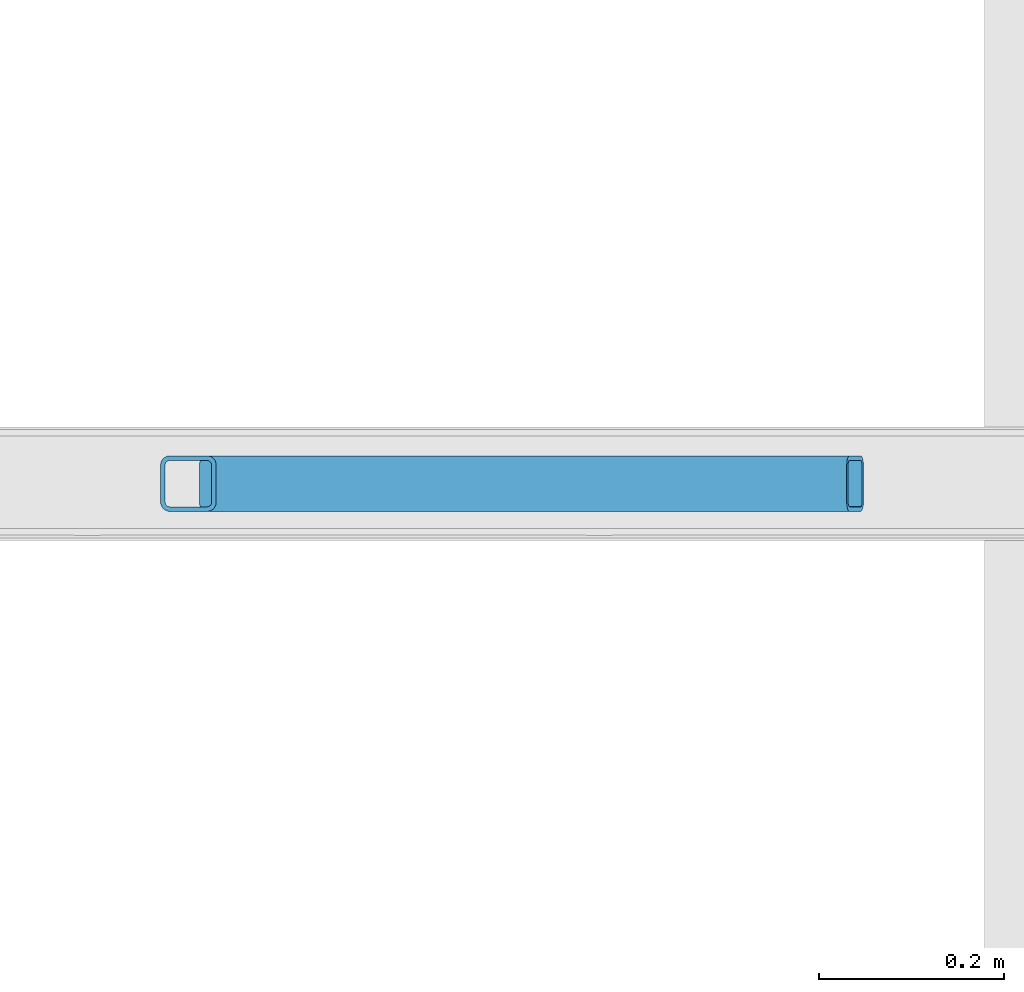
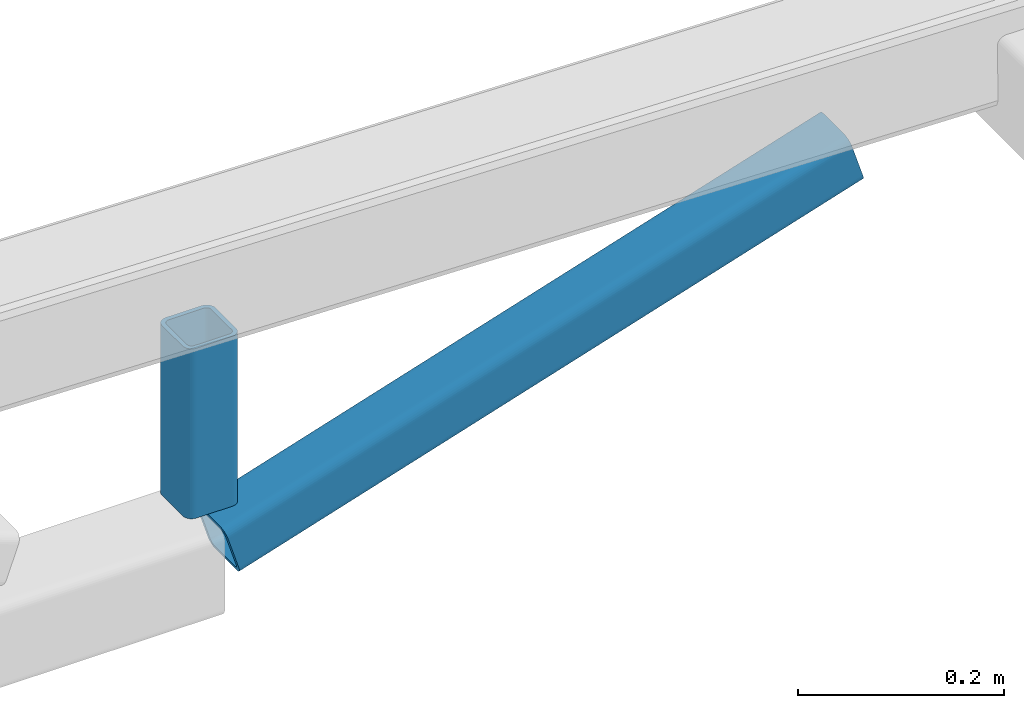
# One storey, part 5 of 10: 2 members, 1 element without a shape of its own.
"""IFC2X3 building model written with IfcOpenShell, lengths in millimetres."""

import ifcopenshell
import ifcopenshell.guid

model = None  # the IFC model being written
_history = None  # IfcOwnerHistory: only IFC2X3 demands one
_inside = {}  # id of a spatial element -> (the spatial element, [elements in it])
_under = {}  # id of a project, library or spatial element -> (it, [spatial elements below it])
_declared = {}  # id of a project -> (the project, [libraries it declares])
_typed = {}  # id of a type object -> (the type object, [elements of that type])
_made_of = {}  # id of a material, layer set ... -> (it, [elements and type objects made of it])


def new_model(schema):
    """Start an empty IFC model of exactly this schema.

    Asked for "IFC4X3", IfcOpenShell would pick the latest addendum, in which some entities
    have other attributes; the version numbers below select the first issue.
    IFC2X3 requires an IfcOwnerHistory on every rooted entity: one is made here for all.
    """
    global model, _history
    if schema == "IFC4X3":
        model = ifcopenshell.file(schema_version=(4, 3, 0, 0))
    else:
        model = ifcopenshell.file(schema=schema)
    _inside.clear()
    _under.clear()
    _declared.clear()
    _typed.clear()
    _made_of.clear()
    _history = None
    if model.schema == "IFC2X3":
        org = make("IfcOrganization", Name="unknown")
        user = make(
            "IfcPersonAndOrganization",
            ThePerson=make("IfcPerson", FamilyName="unknown"),
            TheOrganization=org,
        )
        app = make(
            "IfcApplication",
            ApplicationDeveloper=org,
            Version="unknown",
            ApplicationFullName="unknown",
            ApplicationIdentifier="unknown",
        )
        _history = make(
            "IfcOwnerHistory",
            OwningUser=user,
            OwningApplication=app,
            ChangeAction="ADDED",
            CreationDate=0,
        )
    return model


def make(cls, **values):
    """One entity of the class cls with the attributes given. An attribute that is None is left unset."""
    return model.create_entity(
        cls, **{name: value for name, value in values.items() if value is not None}
    )


def entity(cls, *values):
    """Any entity or typed value of the class cls, its attributes in the order of the schema. None: left unset."""
    e = model.create_entity(cls)
    for i, value in enumerate(values):
        if value is not None:
            e[i] = value
    return e


def rooted(cls, **values):
    """An entity with a GlobalId (a new one), such as an element, a storey or a relation."""
    return make(cls, GlobalId=ifcopenshell.guid.new(), OwnerHistory=_history, **values)


def si_unit(unit_type, name, prefix=None):
    """IfcSIUnit, for example si_unit("LENGTHUNIT", "METRE", prefix="MILLI")."""
    return make("IfcSIUnit", UnitType=unit_type, Prefix=prefix, Name=name)


def converted_unit(unit_type, name, factor, base, dimensions=None, offset=None):
    """IfcConversionBasedUnit, such as the inch: factor (a typed value) times the base unit."""
    return make(
        "IfcConversionBasedUnit"
        if offset is None
        else "IfcConversionBasedUnitWithOffset",
        ConversionOffset=offset,
        Dimensions=None
        if dimensions is None
        else entity("IfcDimensionalExponents", *dimensions),
        UnitType=unit_type,
        Name=name,
        ConversionFactor=make(
            "IfcMeasureWithUnit", ValueComponent=factor, UnitComponent=base
        ),
    )


def derived_unit(unit_type, elements):
    """IfcDerivedUnit: a product of units, each with its exponent."""
    return make(
        "IfcDerivedUnit",
        Elements=[
            make("IfcDerivedUnitElement", Unit=unit, Exponent=power)
            for unit, power in elements
        ],
        UnitType=unit_type,
    )


def assignment(units):
    """IfcUnitAssignment: the units of a project."""
    return None if units is None else make("IfcUnitAssignment", Units=units)


def point(xyz):
    """IfcCartesianPoint."""
    return None if xyz is None else make("IfcCartesianPoint", Coordinates=xyz)


def direction(xyz):
    """IfcDirection."""
    return None if xyz is None else make("IfcDirection", DirectionRatios=xyz)


def frame(location, z_axis=None, x_axis=None):
    """IfcAxis2Placement3D, a coordinate frame: its origin and axes. An axis left out is left unset."""
    return make(
        "IfcAxis2Placement3D",
        Location=point(location),
        Axis=direction(z_axis),
        RefDirection=direction(x_axis),
    )


def frame_2d(location, x_axis=None):
    """IfcAxis2Placement2D, a coordinate frame in the plane: its origin and x axis."""
    return make(
        "IfcAxis2Placement2D", Location=point(location), RefDirection=direction(x_axis)
    )


def origin():
    """The frame at (0, 0, 0) with its axes left unset."""
    return frame((0.0, 0.0, 0.0))


def place(relative_to, where):
    """IfcLocalPlacement: puts the frame where relative to a parent placement (None: the world)."""
    return make(
        "IfcLocalPlacement", PlacementRelTo=relative_to, RelativePlacement=where
    )


def context(
    kind, dimensions, precision=None, world=None, true_north=None, identifier=None
):
    """IfcGeometricRepresentationContext, for example the 3D "Model" context."""
    return make(
        "IfcGeometricRepresentationContext",
        ContextIdentifier=identifier,
        ContextType=kind,
        CoordinateSpaceDimension=dimensions,
        Precision=precision,
        WorldCoordinateSystem=world,
        TrueNorth=true_north,
    )


def subcontext(parent, identifier, kind, view, scale=None):
    """IfcGeometricRepresentationSubContext, for example "Body" below "Model"."""
    return make(
        "IfcGeometricRepresentationSubContext",
        ContextIdentifier=identifier,
        ContextType=kind,
        ParentContext=parent,
        TargetScale=scale,
        TargetView=view,
    )


def project(units=None, contexts=None):
    """IfcProject with its units and contexts."""
    return rooted(
        "IfcProject",
        Name="project",
        RepresentationContexts=contexts,
        UnitsInContext=assignment(units),
    )


def spatial(cls, under=None, at=None, **own):
    """A site, building, storey or space (cls), placed at a placement, below another one or the project."""
    s = rooted(cls, ObjectPlacement=at, **own)
    if under is not None:
        _under.setdefault(under.id(), (under, []))[1].append(s)
    return s


def polyline(points):
    """IfcPolyline through the points."""
    return make("IfcPolyline", Points=[point(p) for p in points])


def circle_curve(where, radius):
    """IfcCircle in the frame where."""
    return make("IfcCircle", Position=where, Radius=radius)


def parameter(value):
    """IfcParameterValue: where a trimmed curve begins or ends, as a parameter of its basis curve."""
    return model.create_entity("IfcParameterValue", value)


def trimmed(basis, trim1, trim2, sense, master):
    """IfcTrimmedCurve: the piece of a basis curve between two trims."""
    return make(
        "IfcTrimmedCurve",
        BasisCurve=basis,
        Trim1=trim1,
        Trim2=trim2,
        SenseAgreement=sense,
        MasterRepresentation=master,
    )


def segment(curve, same_sense, transition):
    """IfcCompositeCurveSegment."""
    return make(
        "IfcCompositeCurveSegment",
        Transition=transition,
        SameSense=same_sense,
        ParentCurve=curve,
    )


def composite_curve(segments, self_intersect=None):
    """IfcCompositeCurve: segments joined end to end."""
    return make("IfcCompositeCurve", Segments=segments, SelfIntersect=self_intersect)


def outline(outer, holes=None, kind="AREA"):
    """IfcArbitraryClosedProfileDef: a profile drawn as a closed curve; with holes, ...WithVoids."""
    if holes is None:
        return make("IfcArbitraryClosedProfileDef", ProfileType=kind, OuterCurve=outer)
    return make(
        "IfcArbitraryProfileDefWithVoids",
        ProfileType=kind,
        OuterCurve=outer,
        InnerCurves=holes,
    )


def extrude(swept, where, along, depth):
    """IfcExtrudedAreaSolid: the profile swept, set in the frame where, extruded along a direction by depth."""
    return make(
        "IfcExtrudedAreaSolid",
        SweptArea=swept,
        Position=where,
        ExtrudedDirection=direction(along),
        Depth=depth,
    )


def shape(context_of_items, identifier, shape_type, items):
    """IfcShapeRepresentation: the items that make up one representation, for example the "Body"."""
    return make(
        "IfcShapeRepresentation",
        ContextOfItems=context_of_items,
        RepresentationIdentifier=identifier,
        RepresentationType=shape_type,
        Items=items,
    )


def source(mapping_origin, context_of_items, identifier, shape_type, items):
    """IfcRepresentationMap: a shape defined once, which mapped items show again and again."""
    return make(
        "IfcRepresentationMap",
        MappingOrigin=mapping_origin,
        MappedRepresentation=shape(context_of_items, identifier, shape_type, items),
    )


def transform(
    local_origin,
    x_axis=None,
    y_axis=None,
    z_axis=None,
    scale=None,
    scale2=None,
    scale3=None,
    uniform=True,
):
    """IfcCartesianTransformationOperator3D, or its non-uniform kind. x_axis, y_axis, z_axis: its Axis1, 2, 3."""
    if uniform:
        return make(
            "IfcCartesianTransformationOperator3D",
            Axis1=direction(x_axis),
            Axis2=direction(y_axis),
            LocalOrigin=point(local_origin),
            Scale=scale,
            Axis3=direction(z_axis),
        )
    return make(
        "IfcCartesianTransformationOperator3DnonUniform",
        Axis1=direction(x_axis),
        Axis2=direction(y_axis),
        LocalOrigin=point(local_origin),
        Scale=scale,
        Axis3=direction(z_axis),
        Scale2=scale2,
        Scale3=scale3,
    )


def mapped(mapping_source, mapping_target):
    """IfcMappedItem: shows the shape of a source again, moved by a transform."""
    return make(
        "IfcMappedItem", MappingSource=mapping_source, MappingTarget=mapping_target
    )


def made_of(thing, what):
    """Note that an element or type object is made of a material, layer set ...; save() writes the relation."""
    if what is not None:
        _made_of.setdefault(what.id(), (what, []))[1].append(thing)
    return thing


def type_object(cls, material=None, **own):
    """A type object (cls), such as IfcWallType, which elements share."""
    return made_of(rooted(cls, **own), material)


def type_shapes(of_type, sources):
    """Give a type object the sources (RepresentationMaps) that its elements show as mapped items."""
    of_type.RepresentationMaps = sources


def element(
    cls,
    number,
    at=None,
    inside=None,
    cuts=None,
    type_object=None,
    material=None,
    context=None,
    identifier="Body",
    shape_type=None,
    held_by="IfcProductDefinitionShape",
    body=None,
    shapes=None,
    **own,
):
    """One element of the class cls, such as IfcWall. Its Tag is "e" and its number.

    at: its placement. inside: the storey or other place that contains it. cuts: it is an
    opening in that element (IfcRelVoidsElement). A single representation is given by context,
    identifier, shape_type and body (its items); several are given by shapes. held_by: the class
    of the entity that holds the representations. save() writes the other relations.
    """
    e = rooted(cls, Tag="e%d" % number, ObjectPlacement=at, **own)
    if body is not None:
        shapes = [shape(context, identifier, shape_type, body)]
    if shapes is not None:
        e.Representation = make(held_by, Representations=shapes)
    if inside is not None:
        _inside.setdefault(inside.id(), (inside, []))[1].append(e)
    if cuts is not None:
        rooted(
            "IfcRelVoidsElement", RelatingBuildingElement=cuts, RelatedOpeningElement=e
        )
    if type_object is not None:
        _typed.setdefault(type_object.id(), (type_object, []))[1].append(e)
    return made_of(e, material)


def aggregate(whole, parts):
    """IfcRelAggregates: a whole, such as a stair, and the parts it consists of."""
    return rooted("IfcRelAggregates", RelatingObject=whole, RelatedObjects=parts)


def save(model, path):
    """Write the relations noted so far, then the file.

    IfcRelAggregates (storeys below a building ...), IfcRelContainedInSpatialStructure (elements
    in a storey), IfcRelDefinesByType, IfcRelAssociatesMaterial and IfcRelDeclares: one each for
    every whole, place, type object, material and project.
    """
    for whole, parts in _under.values():
        aggregate(whole, parts)
    for where, things in _inside.values():
        rooted(
            "IfcRelContainedInSpatialStructure",
            RelatedElements=things,
            RelatingStructure=where,
        )
    for kind, things in _typed.values():
        rooted("IfcRelDefinesByType", RelatedObjects=things, RelatingType=kind)
    for what, things in _made_of.values():
        rooted("IfcRelAssociatesMaterial", RelatedObjects=things, RelatingMaterial=what)
    for by, libraries in _declared.values():
        rooted("IfcRelDeclares", RelatingContext=by, RelatedDefinitions=libraries)
    model.write(path)


model = new_model("IFC2X3")

# Units and contexts
model_context = context("Model", 3, precision=0.01, world=origin(), true_north=direction((6.12303176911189e-17, 1.0)))
body_context = subcontext(model_context, "Body", "Model", "MODEL_VIEW")
ifc_project = project(units=[si_unit("LENGTHUNIT", "METRE", prefix="MILLI"), si_unit("AREAUNIT", "SQUARE_METRE"), si_unit("VOLUMEUNIT", "CUBIC_METRE"), converted_unit("PLANEANGLEUNIT", "DEGREE", entity("IfcRatioMeasure", 0.0174532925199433), si_unit("PLANEANGLEUNIT", "RADIAN"), dimensions=[0, 0, 0, 0, 0, 0, 0]), si_unit("MASSUNIT", "GRAM", prefix="KILO"), derived_unit("MASSDENSITYUNIT", [(si_unit("MASSUNIT", "GRAM", prefix="KILO"), 1), (si_unit("LENGTHUNIT", "METRE"), -3)]), si_unit("TIMEUNIT", "SECOND"), si_unit("FREQUENCYUNIT", "HERTZ"), si_unit("THERMODYNAMICTEMPERATUREUNIT", "DEGREE_CELSIUS"), derived_unit("THERMALTRANSMITTANCEUNIT", [(si_unit("MASSUNIT", "GRAM", prefix="KILO"), 1), (si_unit("THERMODYNAMICTEMPERATUREUNIT", "KELVIN"), -1), (si_unit("TIMEUNIT", "SECOND"), -3)]), derived_unit("VOLUMETRICFLOWRATEUNIT", [(si_unit("LENGTHUNIT", "METRE"), 3), (si_unit("TIMEUNIT", "SECOND"), -1)]), si_unit("ELECTRICCURRENTUNIT", "AMPERE"), si_unit("ELECTRICVOLTAGEUNIT", "VOLT"), si_unit("POWERUNIT", "WATT"), si_unit("FORCEUNIT", "NEWTON", prefix="KILO"), si_unit("ILLUMINANCEUNIT", "LUX"), si_unit("LUMINOUSFLUXUNIT", "LUMEN"), si_unit("LUMINOUSINTENSITYUNIT", "CANDELA"), derived_unit("USERDEFINED", [(si_unit("MASSUNIT", "GRAM", prefix="KILO"), -1), (si_unit("LENGTHUNIT", "METRE"), -2), (si_unit("TIMEUNIT", "SECOND"), 3), (si_unit("LUMINOUSFLUXUNIT", "LUMEN"), 1)]), derived_unit("LINEARVELOCITYUNIT", [(si_unit("LENGTHUNIT", "METRE"), 1), (si_unit("TIMEUNIT", "SECOND"), -1)]), si_unit("PRESSUREUNIT", "PASCAL"), derived_unit("USERDEFINED", [(si_unit("LENGTHUNIT", "METRE"), -2), (si_unit("MASSUNIT", "GRAM", prefix="KILO"), 1), (si_unit("TIMEUNIT", "SECOND"), -2)])], contexts=[model_context])

# Site, building, storey
site_placement = place(None, frame((0.0, 0.0, 101000.0)))
site = spatial("IfcSite", under=ifc_project, at=site_placement, Name="Default", CompositionType="ELEMENT")
building_placement = place(site_placement, origin())
building = spatial("IfcBuilding", under=site, at=building_placement, CompositionType="ELEMENT")
storey_placement = place(building_placement, frame((0.0, 0.0, 6025.0)))
storey = spatial("IfcBuildingStorey", under=building, at=storey_placement, Name="03", CompositionType="ELEMENT", Elevation=6024.9999999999)

# Assembly, members
assembly_placement = place(storey_placement, origin())
assembly = element("IfcElementAssembly", 1, at=assembly_placement, inside=storey, Name="Gitterdrager:Standard", ObjectType="Gitterdrager:Standard", AssemblyPlace="NOTDEFINED", PredefinedType="TRUSS")
member_type_1 = type_object("IfcMemberType", Name="60x60x5", PredefinedType="BRACE")
shared_shape_1 = source(origin(), body_context, "Body", "SweptSolid", [
    extrude(outline(composite_curve([segment(trimmed(circle_curve(frame_2d((-20.0, -20.0), x_axis=(1.0, 0.0)), 10.0), [parameter(180.0)], [parameter(270.0)], True, "PARAMETER"), True, "CONTINUOUS"), segment(polyline([(-20.0, -30.0), (20.0, -30.0)]), True, "CONTINUOUS"), segment(trimmed(circle_curve(frame_2d((20.0, -20.0), x_axis=(1.0, 0.0)), 10.0), [parameter(270.0)], [parameter(5.08888749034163e-14)], True, "PARAMETER"), True, "CONTINUOUS"), segment(polyline([(30.0, -20.0), (30.0, 20.0)]), True, "CONTINUOUS"), segment(trimmed(circle_curve(frame_2d((20.0, 20.0), x_axis=(1.0, 0.0)), 10.0), [parameter(360.0)], [parameter(89.9999999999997)], True, "PARAMETER"), True, "CONTINUOUS"), segment(polyline([(20.0, 30.0), (-20.0, 30.0)]), True, "CONTINUOUS"), segment(trimmed(circle_curve(frame_2d((-20.0, 20.0), x_axis=(1.0, 0.0)), 10.0), [parameter(90.0000000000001)], [parameter(180.0)], True, "PARAMETER"), True, "CONTINUOUS"), segment(polyline([(-30.0, 20.0), (-30.0, -20.0)]), True, "CONTINUOUS")], self_intersect=False), holes=[composite_curve([segment(polyline([(20.0, -25.0), (-20.0, -25.0)]), True, "CONTINUOUS"), segment(trimmed(circle_curve(frame_2d((-20.0, -20.0), x_axis=(1.0, 0.0)), 5.0), [parameter(180.0)], [parameter(270.0)], True, "PARAMETER"), False, "CONTINUOUS"), segment(polyline([(-25.0, -20.0), (-25.0, 20.0)]), True, "CONTINUOUS"), segment(trimmed(circle_curve(frame_2d((-20.0, 20.0), x_axis=(1.0, 0.0)), 5.0), [parameter(90.0000000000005)], [parameter(180.0)], True, "PARAMETER"), False, "CONTINUOUS"), segment(polyline([(-20.0, 25.0), (20.0, 25.0)]), True, "CONTINUOUS"), segment(trimmed(circle_curve(frame_2d((20.0, 20.0), x_axis=(1.0, 0.0)), 5.0), [parameter(0.0)], [parameter(90.0000000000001)], True, "PARAMETER"), False, "CONTINUOUS"), segment(polyline([(25.0, 20.0), (25.0, -20.0)]), True, "CONTINUOUS"), segment(trimmed(circle_curve(frame_2d((20.0, -20.0), x_axis=(1.0, 0.0)), 5.0), [parameter(270.0)], [parameter(4.57999874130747e-13)], True, "PARAMETER"), False, "CONTINUOUS")], self_intersect=False)]), frame((-106.198484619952, 0.0, 0.0), z_axis=(1.0, 0.0, 0.0), x_axis=(0.0, -1.0, 0.0)), (0.0, 0.0, 1.0), 200.861542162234),
])
type_shapes(member_type_1, [shared_shape_1])
member_1_placement = place(assembly_placement, frame((22192.9311636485, 26417.9507529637, -172.125270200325), z_axis=(1.0, 0.0, 0.0), x_axis=(0.0, 0.0, 1.0)))
member_1 = element("IfcMember", 2, at=member_1_placement, type_object=member_type_1, Name="Bjelke HUP:60x60x5", ObjectType="60x60x5", context=body_context, shape_type="MappedRepresentation", body=[
    mapped(shared_shape_1, transform((0.0, 0.0, 0.0), scale=1.0)),
])
member_type_2 = type_object("IfcMemberType", Name="60x60x5", PredefinedType="BRACE")
shared_shape_2 = source(origin(), body_context, "Body", "SweptSolid", [
    extrude(outline(composite_curve([segment(trimmed(circle_curve(frame_2d((-20.0, -20.0), x_axis=(1.0, 0.0)), 10.0), [parameter(180.0)], [parameter(270.0)], True, "PARAMETER"), True, "CONTINUOUS"), segment(polyline([(-20.0, -30.0), (20.0, -30.0)]), True, "CONTINUOUS"), segment(trimmed(circle_curve(frame_2d((20.0, -20.0), x_axis=(1.0, 0.0)), 10.0), [parameter(270.0)], [parameter(5.08888749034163e-14)], True, "PARAMETER"), True, "CONTINUOUS"), segment(polyline([(30.0, -20.0), (30.0, 20.0)]), True, "CONTINUOUS"), segment(trimmed(circle_curve(frame_2d((20.0, 20.0), x_axis=(1.0, 0.0)), 10.0), [parameter(360.0)], [parameter(89.9999999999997)], True, "PARAMETER"), True, "CONTINUOUS"), segment(polyline([(20.0, 30.0), (-20.0, 30.0)]), True, "CONTINUOUS"), segment(trimmed(circle_curve(frame_2d((-20.0, 20.0), x_axis=(1.0, 0.0)), 10.0), [parameter(90.0000000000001)], [parameter(180.0)], True, "PARAMETER"), True, "CONTINUOUS"), segment(polyline([(-30.0, 20.0), (-30.0, -20.0)]), True, "CONTINUOUS")], self_intersect=False), holes=[composite_curve([segment(polyline([(20.0, -25.0), (-20.0, -25.0)]), True, "CONTINUOUS"), segment(trimmed(circle_curve(frame_2d((-20.0, -20.0), x_axis=(1.0, 0.0)), 5.0), [parameter(180.0)], [parameter(270.0)], True, "PARAMETER"), False, "CONTINUOUS"), segment(polyline([(-25.0, -20.0), (-25.0, 20.0)]), True, "CONTINUOUS"), segment(trimmed(circle_curve(frame_2d((-20.0, 20.0), x_axis=(1.0, 0.0)), 5.0), [parameter(90.0000000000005)], [parameter(180.0)], True, "PARAMETER"), False, "CONTINUOUS"), segment(polyline([(-20.0, 25.0), (20.0, 25.0)]), True, "CONTINUOUS"), segment(trimmed(circle_curve(frame_2d((20.0, 20.0), x_axis=(1.0, 0.0)), 5.0), [parameter(0.0)], [parameter(90.0000000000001)], True, "PARAMETER"), False, "CONTINUOUS"), segment(polyline([(25.0, 20.0), (25.0, -20.0)]), True, "CONTINUOUS"), segment(trimmed(circle_curve(frame_2d((20.0, -20.0), x_axis=(1.0, 0.0)), 5.0), [parameter(270.0)], [parameter(4.57999874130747e-13)], True, "PARAMETER"), False, "CONTINUOUS")], self_intersect=False)]), frame((-498.586864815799, 0.0, 0.0), z_axis=(1.0, 0.0, 0.0), x_axis=(0.0, -1.0, 0.0)), (0.0, 0.0, 1.0), 731.687840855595),
])
type_shapes(member_type_2, [shared_shape_2])
member_2_placement = place(assembly_placement, frame((22689.5978303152, 26417.9507529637, -184.523754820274), z_axis=(0.300533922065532, 0.0, -0.953771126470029), x_axis=(0.953771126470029, 0.0, 0.300533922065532)))
member_2 = element("IfcMember", 3, at=member_2_placement, type_object=member_type_2, Name="Bjelke HUP:60x60x5", ObjectType="60x60x5", context=body_context, shape_type="MappedRepresentation", body=[
    mapped(shared_shape_2, transform((0.0, 0.0, 0.0), scale=1.0)),
])
aggregate(assembly, [member_1, member_2])

save(model, "model.ifc")
